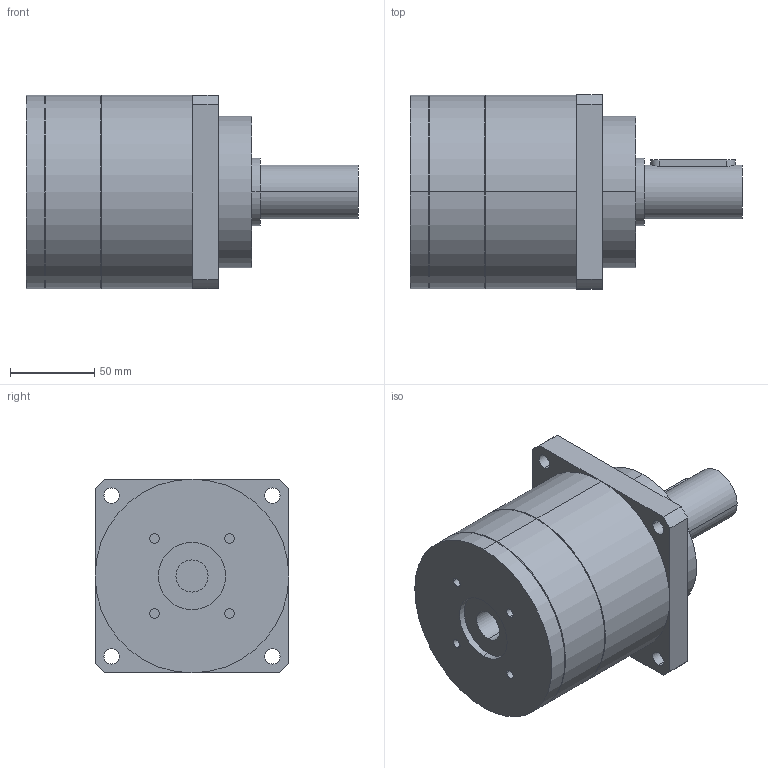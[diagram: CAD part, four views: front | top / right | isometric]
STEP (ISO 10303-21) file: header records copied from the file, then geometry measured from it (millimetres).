
FILE_DESCRIPTION(('CoCreate Modeling STEP Export'),'2;1');
FILE_NAME('GPT120_ig-3-4-5-7-10_32_B5A_19_P23.stp','2015-02-04T16:08:54',(''),(''),'CoCreate Modeling STEP processor for AP214 (Solid Model)','CoCreate Modeling 16.00C 25-Feb-2009 (C) Parametric Technology GmbH','');
FILE_SCHEMA(('AUTOMOTIVE_DESIGN { 1 0 10303 214 1 1 1 1 }'));
Length unit declared in the file: millimetre
Products named in the file (2): GPT120_ig-3-4-5-7-10_32_B5A_19_P23
Assembly tree (1 placements, depth 2):
  GPT120_ig-3-4-5-7-10_32_B5A_19_P23
    GPT120_ig-3-4-5-7-10_32_B5A_19_P23
Bounding box: 197 x 115 x 115 mm (x, y, z)
Volume: 1386593.2 mm3; surface area: 86914.4 mm2
Topology: 1 solids, 1 shells, 69 faces, 169 edges, 114 vertices
Faces by surface type: cylinder 40, plane 25, cone 4
Entity records: 2205 total; most frequent: CARTESIAN_POINT 696, ORIENTED_EDGE 338, DIRECTION 262, EDGE_CURVE 169, VERTEX_POINT 114, AXIS2_PLACEMENT_3D 98, EDGE_LOOP 89, FACE_OUTER_BOUND 69
